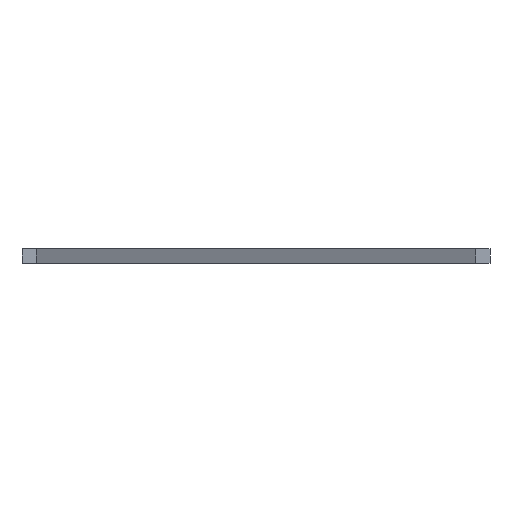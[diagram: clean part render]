
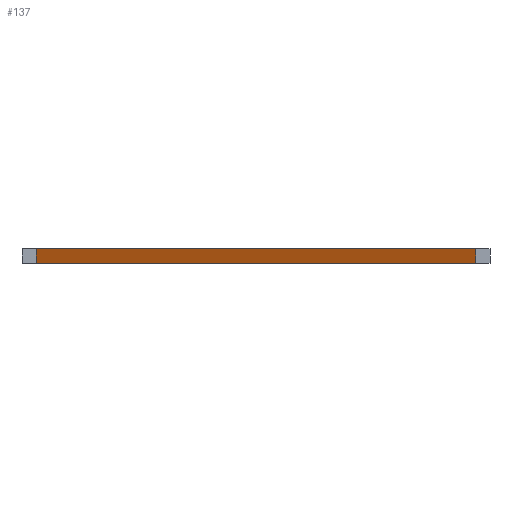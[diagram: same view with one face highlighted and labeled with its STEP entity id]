
A CAD part, left-side view. The second image highlights one B-rep face of the part: STEP entity #137.
In plain terms, the highlighted planar face has unit normal (-0.876, 0.482, 0).
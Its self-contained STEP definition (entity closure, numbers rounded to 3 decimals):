
#21 = EDGE_CURVE('',#22,#24,#26,.T.);
#22 = VERTEX_POINT('',#23);
#23 = CARTESIAN_POINT('',(20.54,18.,0.));
#24 = VERTEX_POINT('',#25);
#25 = CARTESIAN_POINT('',(20.54,18.,18.));
#26 = SURFACE_CURVE('',#27,(#31,#43),.PCURVE_S1.);
#27 = LINE('',#28,#29);
#28 = CARTESIAN_POINT('',(20.54,18.,0.));
#29 = VECTOR('',#30,1.);
#30 = DIRECTION('',(0.,0.,1.));
#31 = PCURVE('',#32,#37);
#32 = PLANE('',#33);
#33 = AXIS2_PLACEMENT_3D('',#34,#35,#36);
#34 = CARTESIAN_POINT('',(20.54,18.,0.));
#35 = DIRECTION('',(0.,1.,0.));
#36 = DIRECTION('',(1.,0.,0.));
#37 = DEFINITIONAL_REPRESENTATION('',(#38),#42);
#38 = LINE('',#39,#40);
#39 = CARTESIAN_POINT('',(0.,0.));
#40 = VECTOR('',#41,1.);
#41 = DIRECTION('',(0.,-1.));
#42 = ( GEOMETRIC_REPRESENTATION_CONTEXT(2) 
PARAMETRIC_REPRESENTATION_CONTEXT() REPRESENTATION_CONTEXT('2D SPACE',''
  ) );
#43 = PCURVE('',#44,#49);
#44 = PLANE('',#45);
#45 = AXIS2_PLACEMENT_3D('',#46,#47,#48);
#46 = CARTESIAN_POINT('',(330.54,582.,0.));
#47 = DIRECTION('',(0.876,-0.482,0.));
#48 = DIRECTION('',(-0.482,-0.876,0.));
#49 = DEFINITIONAL_REPRESENTATION('',(#50),#54);
#50 = LINE('',#51,#52);
#51 = CARTESIAN_POINT('',(643.581,0.));
#52 = VECTOR('',#53,1.);
#53 = DIRECTION('',(0.,-1.));
#54 = ( GEOMETRIC_REPRESENTATION_CONTEXT(2) 
PARAMETRIC_REPRESENTATION_CONTEXT() REPRESENTATION_CONTEXT('2D SPACE',''
  ) );
#72 = PLANE('',#73);
#73 = AXIS2_PLACEMENT_3D('',#74,#75,#76);
#74 = CARTESIAN_POINT('',(500.,231.351,18.));
#75 = DIRECTION('',(0.,0.,1.));
#76 = DIRECTION('',(1.,0.,-0.));
#126 = PLANE('',#127);
#127 = AXIS2_PLACEMENT_3D('',#128,#129,#130);
#128 = CARTESIAN_POINT('',(500.,231.351,0.));
#129 = DIRECTION('',(0.,0.,1.));
#130 = DIRECTION('',(1.,0.,-0.));
#137 = ADVANCED_FACE('',(#138),#44,.F.);
#138 = FACE_BOUND('',#139,.F.);
#139 = EDGE_LOOP('',(#140,#170,#191,#192));
#140 = ORIENTED_EDGE('',*,*,#141,.T.);
#141 = EDGE_CURVE('',#142,#144,#146,.T.);
#142 = VERTEX_POINT('',#143);
#143 = CARTESIAN_POINT('',(330.54,582.,0.));
#144 = VERTEX_POINT('',#145);
#145 = CARTESIAN_POINT('',(330.54,582.,18.));
#146 = SURFACE_CURVE('',#147,(#151,#158),.PCURVE_S1.);
#147 = LINE('',#148,#149);
#148 = CARTESIAN_POINT('',(330.54,582.,0.));
#149 = VECTOR('',#150,1.);
#150 = DIRECTION('',(0.,0.,1.));
#151 = PCURVE('',#44,#152);
#152 = DEFINITIONAL_REPRESENTATION('',(#153),#157);
#153 = LINE('',#154,#155);
#154 = CARTESIAN_POINT('',(0.,0.));
#155 = VECTOR('',#156,1.);
#156 = DIRECTION('',(0.,-1.));
#157 = ( GEOMETRIC_REPRESENTATION_CONTEXT(2) 
PARAMETRIC_REPRESENTATION_CONTEXT() REPRESENTATION_CONTEXT('2D SPACE',''
  ) );
#158 = PCURVE('',#159,#164);
#159 = PLANE('',#160);
#160 = AXIS2_PLACEMENT_3D('',#161,#162,#163);
#161 = CARTESIAN_POINT('',(355.,582.,0.));
#162 = DIRECTION('',(0.,-1.,0.));
#163 = DIRECTION('',(-1.,0.,0.));
#164 = DEFINITIONAL_REPRESENTATION('',(#165),#169);
#165 = LINE('',#166,#167);
#166 = CARTESIAN_POINT('',(24.46,0.));
#167 = VECTOR('',#168,1.);
#168 = DIRECTION('',(0.,-1.));
#169 = ( GEOMETRIC_REPRESENTATION_CONTEXT(2) 
PARAMETRIC_REPRESENTATION_CONTEXT() REPRESENTATION_CONTEXT('2D SPACE',''
  ) );
#170 = ORIENTED_EDGE('',*,*,#171,.T.);
#171 = EDGE_CURVE('',#144,#24,#172,.T.);
#172 = SURFACE_CURVE('',#173,(#177,#184),.PCURVE_S1.);
#173 = LINE('',#174,#175);
#174 = CARTESIAN_POINT('',(330.54,582.,18.));
#175 = VECTOR('',#176,1.);
#176 = DIRECTION('',(-0.482,-0.876,0.));
#177 = PCURVE('',#44,#178);
#178 = DEFINITIONAL_REPRESENTATION('',(#179),#183);
#179 = LINE('',#180,#181);
#180 = CARTESIAN_POINT('',(0.,-18.));
#181 = VECTOR('',#182,1.);
#182 = DIRECTION('',(1.,0.));
#183 = ( GEOMETRIC_REPRESENTATION_CONTEXT(2) 
PARAMETRIC_REPRESENTATION_CONTEXT() REPRESENTATION_CONTEXT('2D SPACE',''
  ) );
#184 = PCURVE('',#72,#185);
#185 = DEFINITIONAL_REPRESENTATION('',(#186),#190);
#186 = LINE('',#187,#188);
#187 = CARTESIAN_POINT('',(-169.46,350.649));
#188 = VECTOR('',#189,1.);
#189 = DIRECTION('',(-0.482,-0.876));
#190 = ( GEOMETRIC_REPRESENTATION_CONTEXT(2) 
PARAMETRIC_REPRESENTATION_CONTEXT() REPRESENTATION_CONTEXT('2D SPACE',''
  ) );
#191 = ORIENTED_EDGE('',*,*,#21,.F.);
#192 = ORIENTED_EDGE('',*,*,#193,.F.);
#193 = EDGE_CURVE('',#142,#22,#194,.T.);
#194 = SURFACE_CURVE('',#195,(#199,#206),.PCURVE_S1.);
#195 = LINE('',#196,#197);
#196 = CARTESIAN_POINT('',(330.54,582.,0.));
#197 = VECTOR('',#198,1.);
#198 = DIRECTION('',(-0.482,-0.876,0.));
#199 = PCURVE('',#44,#200);
#200 = DEFINITIONAL_REPRESENTATION('',(#201),#205);
#201 = LINE('',#202,#203);
#202 = CARTESIAN_POINT('',(0.,0.));
#203 = VECTOR('',#204,1.);
#204 = DIRECTION('',(1.,0.));
#205 = ( GEOMETRIC_REPRESENTATION_CONTEXT(2) 
PARAMETRIC_REPRESENTATION_CONTEXT() REPRESENTATION_CONTEXT('2D SPACE',''
  ) );
#206 = PCURVE('',#126,#207);
#207 = DEFINITIONAL_REPRESENTATION('',(#208),#212);
#208 = LINE('',#209,#210);
#209 = CARTESIAN_POINT('',(-169.46,350.649));
#210 = VECTOR('',#211,1.);
#211 = DIRECTION('',(-0.482,-0.876));
#212 = ( GEOMETRIC_REPRESENTATION_CONTEXT(2) 
PARAMETRIC_REPRESENTATION_CONTEXT() REPRESENTATION_CONTEXT('2D SPACE',''
  ) );
